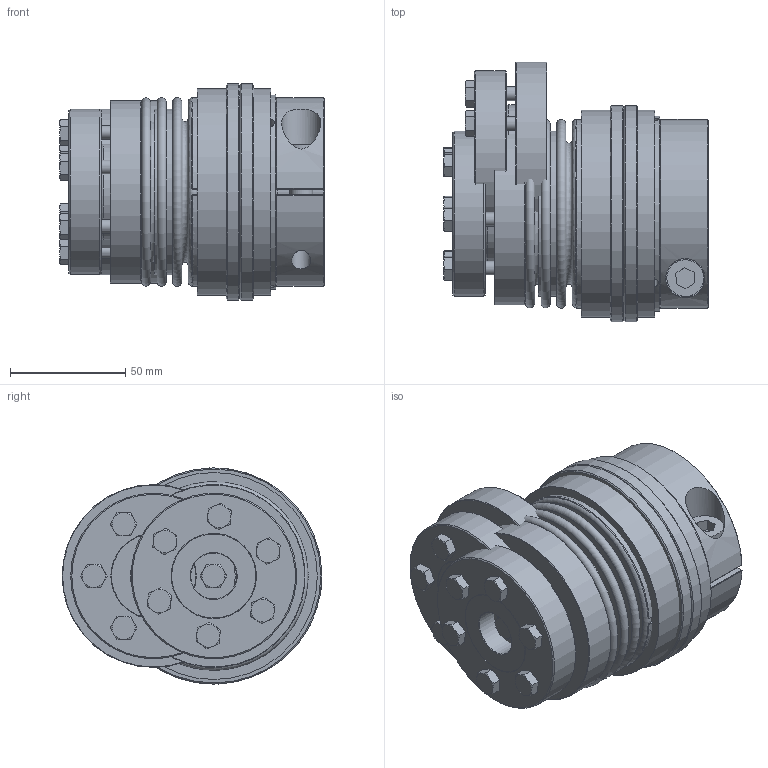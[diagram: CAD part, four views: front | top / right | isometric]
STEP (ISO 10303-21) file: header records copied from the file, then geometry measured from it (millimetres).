
FILE_DESCRIPTION( ( 'Unknown' ), '1' );
FILE_NAME( 'C:/Dokumente und Einstellungen/SKarpstein/Desktop/Korrigierte 3D Modelle/KBK-B-AK/KBK-BAK-80-115.stp', 'Unknown', ( 'Unknown' ), ( 'Unknown' ), 'XStep 1.0', 'Unknown', ' ' );
FILE_SCHEMA( ( 'automotive_design' ) );
Length unit declared in the file: millimetre
Products named in the file (13): Assem1; Assem2; Assem3; BA80-150_Standard; Hex Screw GradeC_DIN_ISO 4018 - M6 x 30-NN; DR80-150_Standard; Zylinderschraube DIN 912_1; Stellring 80; Druckring 80; KBK L-K-80 Grundkörper; Klemmnabe 80; Flansch BK150; BK80-150_Standard_3
Bounding box: 115 x 112.93 x 94 mm (x, y, z)
Volume: 969850.5 mm3; surface area: 355934.9 mm2
Topology: 34 solids, 34 shells, 608 faces, 1291 edges, 829 vertices
Faces by surface type: plane 270, cone 167, cylinder 139, torus 32
Full cylindrical faces by diameter (mm): 3.242 x6, 5 x26, 5.2 x6, 6 x13, 6.6 x18, 8.376 x2, 10 x3, 10.5 x2, 16 x3, 17 x2, 19 x2, 20 x3, 37.5 x2, 40 x4, 42 x2, 42.29 x3, 48 x2, 52 x2, 62 x4, 70 x2, 70.7 x4, 71.9 x4, 72 x3, 79.5 x3, 85 x2, 87 x2, 90 x4, 94 x2
Entity records: 5432 total; most frequent: CARTESIAN_POINT 1319, DIRECTION 820, ORIENTED_EDGE 548, AXIS2_PLACEMENT_3D 379, EDGE_LOOP 366, EDGE_CURVE 274, FACE_OUTER_BOUND 256, VERTEX_POINT 234
